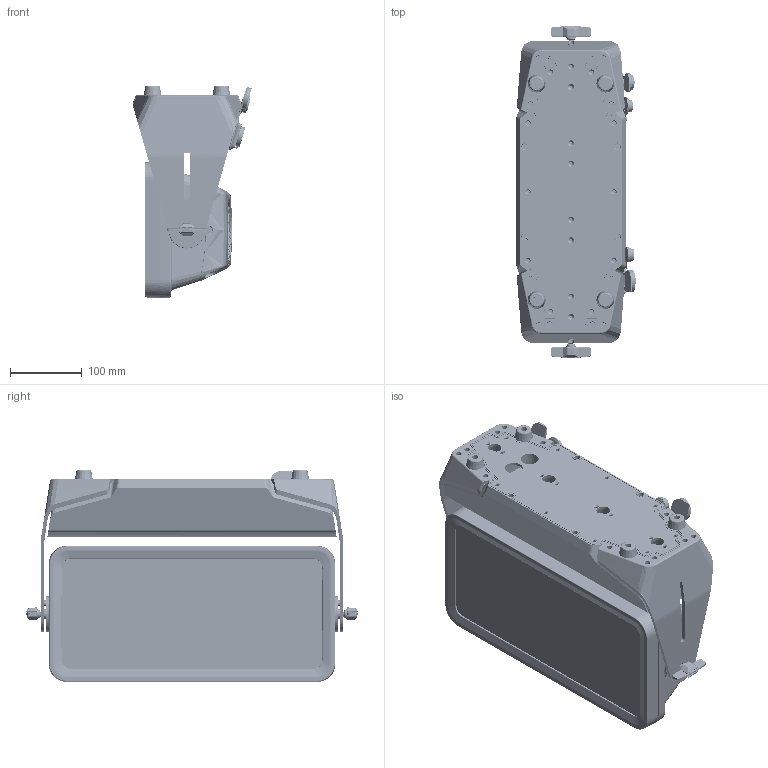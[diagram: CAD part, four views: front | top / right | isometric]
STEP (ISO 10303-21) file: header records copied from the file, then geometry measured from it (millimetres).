
FILE_DESCRIPTION(('HOOPS Exchange Step'),'2;1');
FILE_NAME('E:\cdb\hoops_acs\acs\2540\79218\012927-4-Light Fixture.step','2024-08-12T14:01:35+02:00',('caddok'),('Unknown organisation'),'HOOPS Exchange 2024.0','HOOPS Exchange','Unknown authorisation');
FILE_SCHEMA( ('AP242_MANAGED_MODEL_BASED_3D_ENGINEERING_MIM_LF {1 0 10303 442 1 1 4 }') );
Length unit declared in the file: millimetre
Products named in the file (2): Standard; 012927-4-Light Fixture
Assembly tree (1 placements, depth 2):
  012927-4-Light Fixture
    Standard
Bounding box: 166.49 x 463.41 x 295.8 mm (x, y, z)
Topology: 26 solids, 27 shells, 11622 faces, 30620 edges, 19399 vertices
Faces by surface type: bspline 4694, plane 3927, cylinder 2570, cone 430, torus 1
Full cylindrical faces by diameter (mm): 1.5 x5, 1.7 x5, 2 x5, 2.5 x40, 3 x5, 3.2 x5, 3.4 x4, 3.5 x73, 3.6 x4, 4.2 x32, 4.5 x26, 4.8 x1, 5 x2, 6.5 x1, 7.5 x44, 8 x36, 9 x4, 11.5 x12, 12 x5, 12.1 x2, 13.5 x1, 14.1 x2, 14.5 x4, 15 x1, 16 x2, 17 x1, 17.5 x2, 19 x5, 19.3 x1, 19.5 x1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
Entity records: 900879 total; most frequent: CARTESIAN_POINT 652658, ORIENTED_EDGE 61110, DIRECTION 37259, EDGE_CURVE 30557, VERTEX_POINT 19399, B_SPLINE_CURVE_WITH_KNOTS 12919, AXIS2_PLACEMENT_3D 12679, EDGE_LOOP 12311
